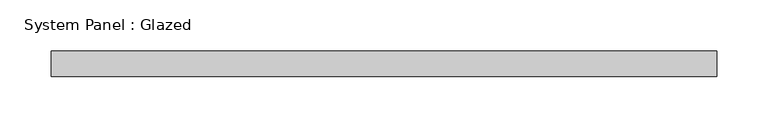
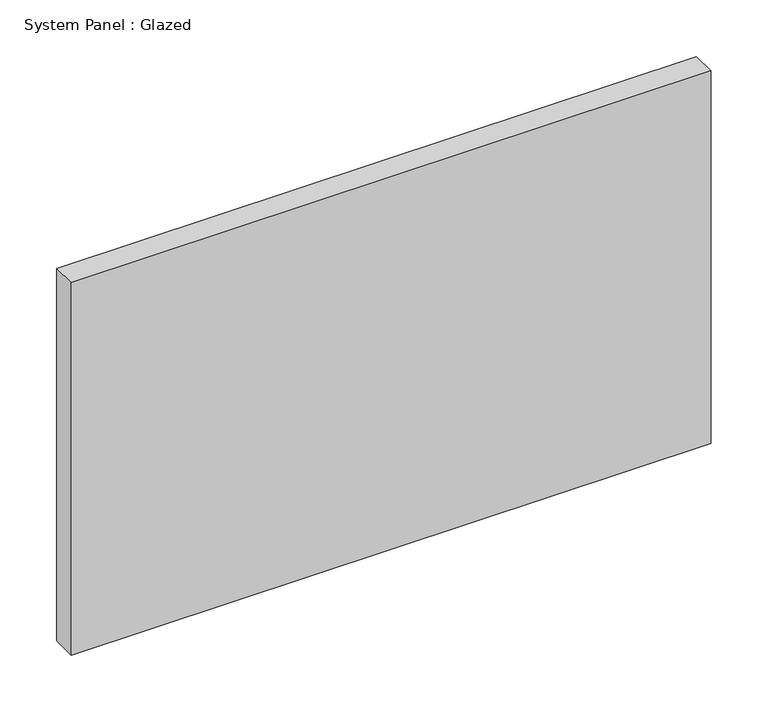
"""IFC4 building model written with IfcOpenShell, lengths in millimetres: plate geometry, System Panel : Glazed."""

from ifc_helpers import new_model, si_unit, origin, origin_with_axes, place, context, project, spatial, polyline, outline, extrude, source, transform, mapped, element, save


def system_panel_glazed_24712de8(model_context):
    return source(origin(), model_context, "Body", "SweptSolid", [
        extrude(outline(polyline([(325.0000001, -49.5), (-325.0000001, -49.5), (-325.0000001, -24.5), (325.0000001, -24.5), (325.0000001, -49.5)])), origin_with_axes(), (0.0, 0.0, 1.0), 400.0),
    ])


if __name__ == "__main__":
    model = new_model("IFC4")
    model_context = context("Model", 3, world=origin())
    ifc_project = project(units=[si_unit("LENGTHUNIT", "METRE", prefix="MILLI")], contexts=[model_context])
    site = spatial("IfcSite", under=ifc_project)
    building = spatial("IfcBuilding", under=site)
    placement = place(None, origin())
    system_panel_glazed_shape = system_panel_glazed_24712de8(model_context)
    element("IfcPlate", 1, ObjectType="System Panel : Glazed", at=placement, inside=building, context=model_context, shape_type="MappedRepresentation", body=[
        mapped(system_panel_glazed_shape, transform((0.0, 0.0, 0.0), x_axis=(1.0, 0.0, 0.0), y_axis=(0.0, 1.0, 0.0), z_axis=(0.0, 0.0, 1.0))),
    ])
    save(model, "model.ifc")
